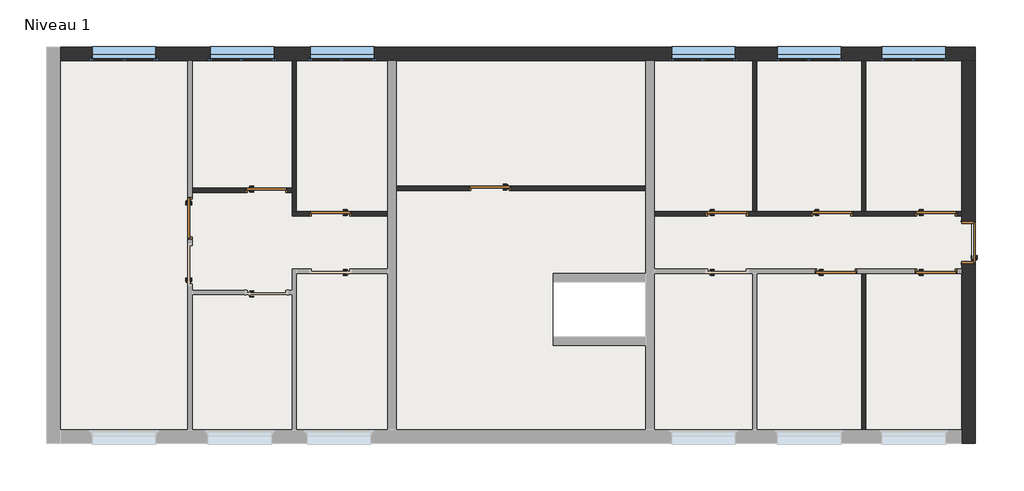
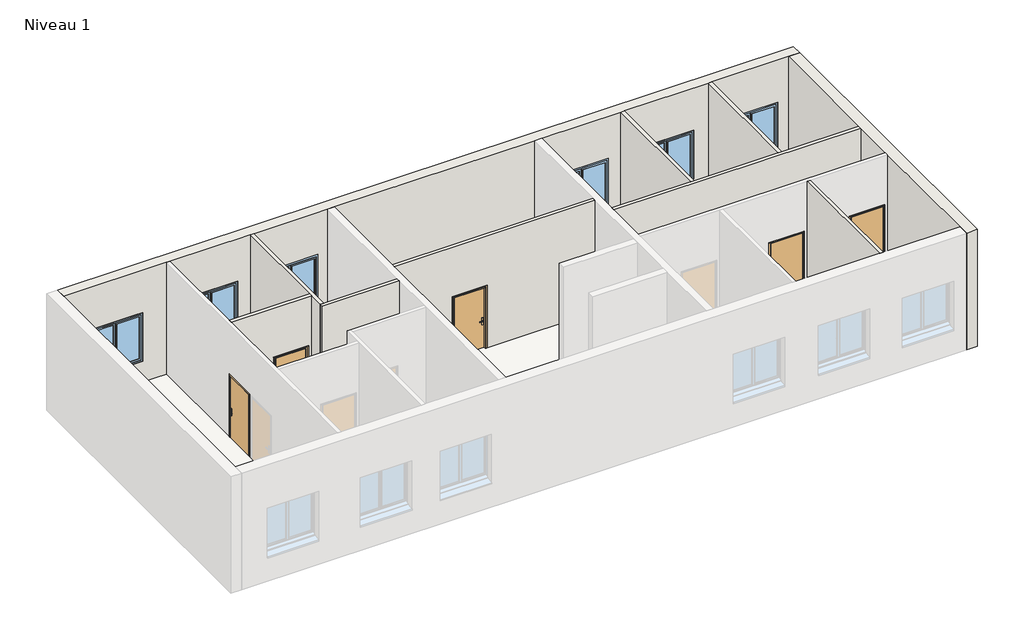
# One storey, part 2 of 2: 10 doors, 10 walls, 6 windows, 1 slab.
"""IFC4 building model written with IfcOpenShell, lengths in millimetres."""

from ifc_helpers import new_model, si_unit, frame, origin, place, context, project, spatial, polyline, outline, extrude, faceted_brep, transform, mapped, element, save
from components import int_simple_pp_0_93m_x_2_04m_4f2bf630, int_simple_pp_0_93m_x_2_04m_68d1b237, int_simple_pp_0_93m_x_2_04m_d9fe3ddc, window_4dd6e4df, window_9a843f60

model = new_model("IFC4")

# Units and contexts
model_context = context("Model", 3, world=origin())
ifc_project = project(units=[si_unit("LENGTHUNIT", "METRE", prefix="MILLI")], contexts=[model_context])

# Site, building, storey
site = spatial("IfcSite", under=ifc_project)
building = spatial("IfcBuilding", under=site)
storey = spatial("IfcBuildingStorey", under=building, Name="Niveau 1", Elevation=3600.0)

# Doors
placement = place(None, origin())
int_simple_pp_0_93m_x_2_04m_shape = int_simple_pp_0_93m_x_2_04m_4f2bf630(model_context)
element("IfcDoor", 1, ObjectType="Int. Simple : PP (0.93m x 2.04m)", at=placement, inside=storey, context=model_context, shape_type="MappedRepresentation", body=[
    mapped(int_simple_pp_0_93m_x_2_04m_shape, transform((4246.759299, -1075.3060551, 3600.0), x_axis=(1.0, 0.0, 0.0), y_axis=(0.0, 1.0, 0.0), z_axis=(0.0, 0.0, 1.0))),
])
element("IfcDoor", 2, ObjectType="Int. Simple : PP (0.93m x 2.04m)", at=placement, inside=storey, context=model_context, shape_type="MappedRepresentation", body=[
    mapped(int_simple_pp_0_93m_x_2_04m_shape, transform((6596.759299, -1075.3060551, 3600.0), x_axis=(1.0, 0.0, 0.0), y_axis=(0.0, 1.0, 0.0), z_axis=(0.0, 0.0, 1.0))),
])
element("IfcDoor", 3, ObjectType="Int. Simple : PP (0.93m x 2.04m)", at=placement, inside=storey, context=model_context, shape_type="MappedRepresentation", body=[
    mapped(int_simple_pp_0_93m_x_2_04m_shape, transform((-3953.240701, 874.6939449, 3600.0), x_axis=(-1.0, 0.0, 0.0), y_axis=(0.0, -1.0, 0.0), z_axis=(0.0, 0.0, 1.0))),
])
element("IfcDoor", 4, ObjectType="Int. Simple : PP (0.93m x 2.04m)", at=placement, inside=storey, context=model_context, shape_type="MappedRepresentation", body=[
    mapped(int_simple_pp_0_93m_x_2_04m_shape, transform((-7703.240701, 274.6939449, 3600.0), x_axis=(-1.0, 0.0, 0.0), y_axis=(0.0, -1.0, 0.0), z_axis=(0.0, 0.0, 1.0))),
])
element("IfcDoor", 5, ObjectType="Int. Simple : PP (0.93m x 2.04m)", at=placement, inside=storey, context=model_context, shape_type="MappedRepresentation", body=[
    mapped(int_simple_pp_0_93m_x_2_04m_shape, transform((-10968.240701, 139.6939449, 3600.0), x_axis=(0.0, -1.0, 0.0), y_axis=(1.0, 0.0, 0.0), z_axis=(0.0, 0.0, 1.0))),
])
int_simple_pp_0_93m_x_2_04m_2_shape = int_simple_pp_0_93m_x_2_04m_68d1b237(model_context)
element("IfcDoor", 6, ObjectType="Int. Simple : PP (0.93m x 2.04m)", at=placement, inside=storey, context=model_context, shape_type="MappedRepresentation", body=[
    mapped(int_simple_pp_0_93m_x_2_04m_2_shape, transform((6596.759299, 274.6939449, 3600.0), x_axis=(1.0, 0.0, 0.0), y_axis=(0.0, 1.0, 0.0), z_axis=(0.0, 0.0, 1.0))),
])
element("IfcDoor", 7, ObjectType="Int. Simple : PP (0.93m x 2.04m)", at=placement, inside=storey, context=model_context, shape_type="MappedRepresentation", body=[
    mapped(int_simple_pp_0_93m_x_2_04m_2_shape, transform((4146.759299, 274.6939449, 3600.0), x_axis=(1.0, 0.0, 0.0), y_axis=(0.0, 1.0, 0.0), z_axis=(0.0, 0.0, 1.0))),
])
element("IfcDoor", 8, ObjectType="Int. Simple : PP (0.93m x 2.04m)", at=placement, inside=storey, context=model_context, shape_type="MappedRepresentation", body=[
    mapped(int_simple_pp_0_93m_x_2_04m_2_shape, transform((1686.759299, 274.6939449, 3600.0), x_axis=(1.0, 0.0, 0.0), y_axis=(0.0, 1.0, 0.0), z_axis=(0.0, 0.0, 1.0))),
])
element("IfcDoor", 9, ObjectType="Int. Simple : PP (0.93m x 2.04m)", at=placement, inside=storey, context=model_context, shape_type="MappedRepresentation", body=[
    mapped(int_simple_pp_0_93m_x_2_04m_2_shape, transform((-9133.240701, 824.6939449, 3600.0), x_axis=(1.0, 0.0, 0.0), y_axis=(0.0, 1.0, 0.0), z_axis=(0.0, 0.0, 1.0))),
])
int_simple_pp_0_93m_x_2_04m_3_shape = int_simple_pp_0_93m_x_2_04m_d9fe3ddc(model_context)
element("IfcDoor", 10, ObjectType="Int. Simple : PP (0.93m x 2.04m)", at=placement, inside=storey, context=model_context, shape_type="MappedRepresentation", body=[
    mapped(int_simple_pp_0_93m_x_2_04m_3_shape, transform((7321.759299, -365.3060551, 3600.0), x_axis=(0.0, 1.0, 0.0), y_axis=(-1.0, 0.0, 0.0), z_axis=(0.0, 0.0, 1.0))),
])

# Slab
element("IfcSlab", 11, ObjectType="Dalle en béton - 150 mm", at=placement, inside=storey, context=model_context, shape_type="SweptSolid", body=[
    extrude(outline(polyline([(-14238.240701, -5025.3060551), (-14238.240701, 4094.6939449), (7381.759299, 4094.6939449), (7381.759299, -5025.3060551), (-14238.240701, -5025.3060551)]), holes=[polyline([(-258.240701, -1329.6604406), (-2430.4682755, -1329.6604406), (-2430.4682755, -2625.3060551), (-258.240701, -2625.3060551), (-258.240701, -1329.6604406)])]), frame((0.0, 0.0, 3600.0), z_axis=(0.0, 0.0, 1.0), x_axis=(1.0, 0.0, 0.0)), (0.0, 0.0, 1.0), 150.0),
])

# Walls
element("IfcWall", 12, ObjectType="Int. plâtre 100 mm", at=placement, inside=storey, context=model_context, shape_type="Brep", body=[
    faceted_brep([(7161.759299, 224.6939449, 7200.0), (-58.240701, 224.6939449, 7200.0), (-58.240701, 224.6939449, 3600.0), (1151.759299, 224.6939449, 3600.0), (1151.759299, 224.6939449, 5675.0), (2151.759299, 224.6939449, 5675.0), (2151.759299, 224.6939449, 3600.0), (3611.759299, 224.6939449, 3600.0), (3611.759299, 224.6939449, 5675.0), (4611.759299, 224.6939449, 5675.0), (4611.759299, 224.6939449, 3600.0), (6061.759299, 224.6939449, 3600.0), (6061.759299, 224.6939449, 5675.0), (7061.759299, 224.6939449, 5675.0), (7061.759299, 224.6939449, 3600.0), (7161.759299, 224.6939449, 3600.0), (-58.240701, 324.6939449, 7200.0), (2251.759299, 324.6939449, 7200.0), (2351.759299, 324.6939449, 7200.0), (4811.759299, 324.6939449, 7200.0), (4911.759299, 324.6939449, 7200.0), (7161.759299, 324.6939449, 7200.0), (7161.759299, 324.6939449, 3600.0), (7061.759299, 324.6939449, 3600.0), (7061.759299, 324.6939449, 5675.0), (6061.759299, 324.6939449, 5675.0), (6061.759299, 324.6939449, 3600.0), (4911.759299, 324.6939449, 3600.0), (4811.759299, 324.6939449, 3600.0), (4611.759299, 324.6939449, 3600.0), (4611.759299, 324.6939449, 5675.0), (3611.759299, 324.6939449, 5675.0), (3611.759299, 324.6939449, 3600.0), (2351.759299, 324.6939449, 3600.0), (2251.759299, 324.6939449, 3600.0), (2151.759299, 324.6939449, 3600.0), (2151.759299, 324.6939449, 5675.0), (1151.759299, 324.6939449, 5675.0), (1151.759299, 324.6939449, 3600.0), (-58.240701, 324.6939449, 3600.0)], [[[0, 1, 2, 3, 4, 5, 6, 7, 8, 9, 10, 11, 12, 13, 14, 15]], [[16, 17, 18, 19, 20, 21, 22, 23, 24, 25, 26, 27, 28, 29, 30, 31, 32, 33, 34, 35, 36, 37, 38, 39]], [[2, 39, 38, 3]], [[22, 15, 14, 23]], [[26, 11, 10, 29, 28, 27]], [[32, 7, 6, 35, 34, 33]], [[1, 0, 21, 20, 19, 18, 17, 16]], [[0, 15, 22, 21]], [[2, 1, 16, 39]], [[13, 24, 23, 14]], [[24, 13, 12, 25]], [[25, 12, 11, 26]], [[10, 9, 30, 29]], [[9, 8, 31, 30]], [[8, 7, 32, 31]], [[5, 36, 35, 6]], [[36, 5, 4, 37]], [[37, 4, 3, 38]]]),
])
element("IfcWall", 13, ObjectType="Int. plâtre 100 mm", at=placement, inside=storey, context=model_context, shape_type="SweptSolid", body=[
    extrude(outline(polyline([(4911.759299, -1125.3060551), (4911.759299, -4805.3060551), (4811.759299, -4805.3060551), (4811.759299, -1125.3060551), (4911.759299, -1125.3060551)])), frame((0.0, 0.0, 3600.0), z_axis=(0.0, 0.0, 1.0), x_axis=(1.0, 0.0, 0.0)), (0.0, 0.0, 1.0), 3600.0),
])
element("IfcWall", 14, ObjectType="Int. plâtre 100 mm", at=placement, inside=storey, context=model_context, shape_type="SweptSolid", body=[
    extrude(outline(polyline([(2251.759299, 324.6939449), (2251.759299, 3874.6939449), (2351.759299, 3874.6939449), (2351.759299, 324.6939449), (2251.759299, 324.6939449)])), frame((0.0, 0.0, 3600.0), z_axis=(0.0, 0.0, 1.0), x_axis=(1.0, 0.0, 0.0)), (0.0, 0.0, 1.0), 3600.0),
])
element("IfcWall", 15, ObjectType="Int. plâtre 100 mm", at=placement, inside=storey, context=model_context, shape_type="SweptSolid", body=[
    extrude(outline(polyline([(4811.759299, 324.6939449), (4811.759299, 3874.6939449), (4911.759299, 3874.6939449), (4911.759299, 324.6939449), (4811.759299, 324.6939449)])), frame((0.0, 0.0, 3600.0), z_axis=(0.0, 0.0, 1.0), x_axis=(1.0, 0.0, 0.0)), (0.0, 0.0, 1.0), 3600.0),
])
element("IfcWall", 16, ObjectType="Int. plâtre 100 mm", at=placement, inside=storey, context=model_context, shape_type="Brep", body=[
    faceted_brep([(-8568.240701, 324.6939449, 7200.0), (-8468.240701, 324.6939449, 7200.0), (-6318.240701, 324.6939449, 7200.0), (-6318.240701, 324.6939449, 3600.0), (-7168.240701, 324.6939449, 3600.0), (-7168.240701, 324.6939449, 5675.0), (-8168.240701, 324.6939449, 5675.0), (-8168.240701, 324.6939449, 3600.0), (-8468.240701, 324.6939449, 3600.0), (-8568.240701, 324.6939449, 3600.0), (-6318.240701, 224.6939449, 7200.0), (-8568.240701, 224.6939449, 7200.0), (-8568.240701, 224.6939449, 3600.0), (-8168.240701, 224.6939449, 3600.0), (-8168.240701, 224.6939449, 5675.0), (-7168.240701, 224.6939449, 5675.0), (-7168.240701, 224.6939449, 3600.0), (-6318.240701, 224.6939449, 3600.0)], [[[0, 1, 2, 3, 4, 5, 6, 7, 8, 9]], [[10, 11, 12, 13, 14, 15, 16, 17]], [[3, 17, 16, 4]], [[12, 9, 8, 7, 13]], [[2, 1, 0, 11, 10]], [[3, 2, 10, 17]], [[0, 9, 12, 11]], [[6, 14, 13, 7]], [[14, 6, 5, 15]], [[15, 5, 4, 16]]]),
])
element("IfcWall", 17, ObjectType="Int. plâtre 100 mm", at=placement, inside=storey, context=model_context, shape_type="Brep", body=[
    faceted_brep([(-8468.240701, 324.6939449, 3600.0), (-8468.240701, 3874.6939449, 3600.0), (-8468.240701, 3874.6939449, 7200.0), (-8468.240701, 324.6939449, 7200.0), (-8568.240701, 324.6939449, 3600.0), (-8568.240701, 324.6939449, 7200.0), (-8568.240701, 774.6939449, 7200.0), (-8568.240701, 874.6939449, 7200.0), (-8568.240701, 3874.6939449, 7200.0), (-8568.240701, 3874.6939449, 3600.0), (-8568.240701, 874.6939449, 3600.0), (-8568.240701, 774.6939449, 3600.0)], [[[0, 1, 2, 3]], [[4, 5, 6, 7, 8, 9, 10, 11]], [[1, 0, 4, 11, 10, 9]], [[3, 2, 8, 7, 6, 5]], [[0, 3, 5, 4]], [[2, 1, 9, 8]]]),
])
element("IfcWall", 18, ObjectType="Int. plâtre 100 mm", at=placement, inside=storey, context=model_context, shape_type="SweptSolid", body=[
    extrude(outline(polyline([(7200.0, -8568.240701), (7200.0, -10918.240701), (3600.0, -10918.240701), (3600.0, -9668.240701), (5675.0, -9668.240701), (5675.0, -8668.240701), (3600.0, -8668.240701), (3600.0, -8568.240701), (7200.0, -8568.240701)])), frame((0.0, 774.6939449, 0.0), z_axis=(0.0, 1.0, 0.0), x_axis=(0.0, 0.0, 1.0)), (0.0, 0.0, 1.0), 100.0),
])
element("IfcWall", 19, ObjectType="Int. plâtre 100 mm", at=placement, inside=storey, context=model_context, shape_type="SweptSolid", body=[
    extrude(outline(polyline([(7200.0, -258.240701), (7200.0, -6118.240701), (3600.0, -6118.240701), (3600.0, -4418.240701), (5675.0, -4418.240701), (5675.0, -3418.240701), (3600.0, -3418.240701), (3600.0, -258.240701), (7200.0, -258.240701)])), frame((0.0, 824.6939449, 0.0), z_axis=(0.0, 1.0, 0.0), x_axis=(0.0, 0.0, 1.0)), (0.0, 0.0, 1.0), 100.0),
])
element("IfcWall", 20, ObjectType="Ext. Voile BA 20 + Isolant 10", at=placement, inside=storey, context=model_context, shape_type="Brep", body=[
    faceted_brep([(-14018.240701, 3874.6939449, 3600.0), (-11018.240701, 3874.6939449, 3600.0), (-10918.240701, 3874.6939449, 3600.0), (-8568.240701, 3874.6939449, 3600.0), (-8468.240701, 3874.6939449, 3600.0), (-6318.240701, 3874.6939449, 3600.0), (-6118.240701, 3874.6939449, 3600.0), (-258.240701, 3874.6939449, 3600.0), (-58.240701, 3874.6939449, 3600.0), (2251.759299, 3874.6939449, 3600.0), (2351.759299, 3874.6939449, 3600.0), (4811.759299, 3874.6939449, 3600.0), (4911.759299, 3874.6939449, 3600.0), (7161.759299, 3874.6939449, 3600.0), (7481.759299, 3874.6939449, 3600.0), (7481.759299, 3874.6939449, 7200.0), (7161.759299, 3874.6939449, 7200.0), (4911.759299, 3874.6939449, 7200.0), (4811.759299, 3874.6939449, 7200.0), (2351.759299, 3874.6939449, 7200.0), (2251.759299, 3874.6939449, 7200.0), (-58.240701, 3874.6939449, 7200.0), (-258.240701, 3874.6939449, 7200.0), (-6118.240701, 3874.6939449, 7200.0), (-6318.240701, 3874.6939449, 7200.0), (-8468.240701, 3874.6939449, 7200.0), (-8568.240701, 3874.6939449, 7200.0), (-10918.240701, 3874.6939449, 7200.0), (-11018.240701, 3874.6939449, 7200.0), (-14018.240701, 3874.6939449, 7200.0), (-6593.240701, 3874.6939449, 4400.0), (-8193.240701, 3874.6939449, 4400.0), (-8193.240701, 3874.6939449, 5900.0), (-6593.240701, 3874.6939449, 5900.0), (-8943.240701, 3874.6939449, 4400.0), (-10543.240701, 3874.6939449, 4400.0), (-10543.240701, 3874.6939449, 5900.0), (-8943.240701, 3874.6939449, 5900.0), (-11718.240701, 3874.6939449, 4400.0), (-13318.240701, 3874.6939449, 4400.0), (-13318.240701, 3874.6939449, 5900.0), (-11718.240701, 3874.6939449, 5900.0), (6836.759299, 3874.6939449, 4400.0), (5236.759299, 3874.6939449, 4400.0), (5236.759299, 3874.6939449, 5900.0), (6836.759299, 3874.6939449, 5900.0), (4381.759299, 3874.6939449, 4400.0), (2781.759299, 3874.6939449, 4400.0), (2781.759299, 3874.6939449, 5900.0), (4381.759299, 3874.6939449, 5900.0), (1896.759299, 3874.6939449, 4400.0), (296.759299, 3874.6939449, 4400.0), (296.759299, 3874.6939449, 5900.0), (1896.759299, 3874.6939449, 5900.0), (-14018.240701, 4194.6939449, 3600.0), (-14018.240701, 4194.6939449, 7200.0), (7481.759299, 4194.6939449, 7200.0), (7481.759299, 4194.6939449, 3600.0), (-8143.240701, 4194.6939449, 5850.0), (-8143.240701, 4194.6939449, 4320.0), (-6643.240701, 4194.6939449, 4320.0), (-6643.240701, 4194.6939449, 5850.0), (-10493.240701, 4194.6939449, 5850.0), (-10493.240701, 4194.6939449, 4320.0), (-8993.240701, 4194.6939449, 4320.0), (-8993.240701, 4194.6939449, 5850.0), (-11768.240701, 4194.6939449, 4320.0), (-11768.240701, 4194.6939449, 5850.0), (-13268.240701, 4194.6939449, 5850.0), (-13268.240701, 4194.6939449, 4320.0), (5286.759299, 4194.6939449, 5850.0), (5286.759299, 4194.6939449, 4320.0), (6786.759299, 4194.6939449, 4320.0), (6786.759299, 4194.6939449, 5850.0), (2831.759299, 4194.6939449, 5850.0), (2831.759299, 4194.6939449, 4320.0), (4331.759299, 4194.6939449, 4320.0), (4331.759299, 4194.6939449, 5850.0), (346.759299, 4194.6939449, 5850.0), (346.759299, 4194.6939449, 4320.0), (1846.759299, 4194.6939449, 4320.0), (1846.759299, 4194.6939449, 5850.0), (-8143.240701, 3954.6939449, 4400.0), (-8143.240701, 3954.6939449, 4320.0), (-8143.240701, 3974.6939449, 5850.0), (-8143.240701, 3974.6939449, 4400.0), (-6643.240701, 3954.6939449, 4320.0), (-6643.240701, 3954.6939449, 4400.0), (-6643.240701, 3974.6939449, 4400.0), (-6643.240701, 3974.6939449, 5850.0), (-8153.240701, 3974.6939449, 4400.0), (-8153.240701, 3924.6939449, 4400.0), (-8193.240701, 3924.6939449, 4400.0), (-6593.240701, 3924.6939449, 4400.0), (-6633.240701, 3924.6939449, 4400.0), (-6633.240701, 3974.6939449, 4400.0), (-8193.240701, 3924.6939449, 5900.0), (-8153.240701, 3924.6939449, 5860.0), (-6633.240701, 3924.6939449, 5860.0), (-6593.240701, 3924.6939449, 5900.0), (-8153.240701, 3974.6939449, 5860.0), (-6633.240701, 3974.6939449, 5860.0), (-10493.240701, 3954.6939449, 4400.0), (-10493.240701, 3954.6939449, 4320.0), (-10493.240701, 3974.6939449, 5850.0), (-10493.240701, 3974.6939449, 4400.0), (-8993.240701, 3954.6939449, 4320.0), (-8993.240701, 3954.6939449, 4400.0), (-8993.240701, 3974.6939449, 4400.0), (-8993.240701, 3974.6939449, 5850.0), (-10503.240701, 3974.6939449, 4400.0), (-10503.240701, 3924.6939449, 4400.0), (-10543.240701, 3924.6939449, 4400.0), (-8943.240701, 3924.6939449, 4400.0), (-8983.240701, 3924.6939449, 4400.0), (-8983.240701, 3974.6939449, 4400.0), (-10543.240701, 3924.6939449, 5900.0), (-10503.240701, 3924.6939449, 5860.0), (-8983.240701, 3924.6939449, 5860.0), (-8943.240701, 3924.6939449, 5900.0), (-10503.240701, 3974.6939449, 5860.0), (-8983.240701, 3974.6939449, 5860.0), (-11768.240701, 3954.6939449, 4400.0), (-11768.240701, 3974.6939449, 4400.0), (-11768.240701, 3974.6939449, 5850.0), (-11768.240701, 3954.6939449, 4320.0), (-13268.240701, 3954.6939449, 4320.0), (-13268.240701, 3974.6939449, 5850.0), (-13268.240701, 3974.6939449, 4400.0), (-13268.240701, 3954.6939449, 4400.0), (-13278.240701, 3974.6939449, 4400.0), (-13278.240701, 3924.6939449, 4400.0), (-13318.240701, 3924.6939449, 4400.0), (-11718.240701, 3924.6939449, 4400.0), (-11758.240701, 3924.6939449, 4400.0), (-11758.240701, 3974.6939449, 4400.0), (-11718.240701, 3924.6939449, 5900.0), (-13318.240701, 3924.6939449, 5900.0), (-13278.240701, 3924.6939449, 5860.0), (-11758.240701, 3924.6939449, 5860.0), (-11758.240701, 3974.6939449, 5860.0), (-13278.240701, 3974.6939449, 5860.0), (5286.759299, 3954.6939449, 4400.0), (5286.759299, 3954.6939449, 4320.0), (5286.759299, 3974.6939449, 5850.0), (5286.759299, 3974.6939449, 4400.0), (6786.759299, 3954.6939449, 4320.0), (6786.759299, 3954.6939449, 4400.0), (6786.759299, 3974.6939449, 4400.0), (6786.759299, 3974.6939449, 5850.0), (5276.759299, 3974.6939449, 4400.0), (5276.759299, 3924.6939449, 4400.0), (5236.759299, 3924.6939449, 4400.0), (6836.759299, 3924.6939449, 4400.0), (6796.759299, 3924.6939449, 4400.0), (6796.759299, 3974.6939449, 4400.0), (5236.759299, 3924.6939449, 5900.0), (5276.759299, 3924.6939449, 5860.0), (6796.759299, 3924.6939449, 5860.0), (6836.759299, 3924.6939449, 5900.0), (5276.759299, 3974.6939449, 5860.0), (6796.759299, 3974.6939449, 5860.0), (2831.759299, 3954.6939449, 4400.0), (2831.759299, 3954.6939449, 4320.0), (2831.759299, 3974.6939449, 5850.0), (2831.759299, 3974.6939449, 4400.0), (4331.759299, 3954.6939449, 4320.0), (4331.759299, 3954.6939449, 4400.0), (4331.759299, 3974.6939449, 4400.0), (4331.759299, 3974.6939449, 5850.0), (2821.759299, 3974.6939449, 4400.0), (2821.759299, 3924.6939449, 4400.0), (2781.759299, 3924.6939449, 4400.0), (4381.759299, 3924.6939449, 4400.0), (4341.759299, 3924.6939449, 4400.0), (4341.759299, 3974.6939449, 4400.0), (2781.759299, 3924.6939449, 5900.0), (2821.759299, 3924.6939449, 5860.0), (4341.759299, 3924.6939449, 5860.0), (4381.759299, 3924.6939449, 5900.0), (2821.759299, 3974.6939449, 5860.0), (4341.759299, 3974.6939449, 5860.0), (346.759299, 3954.6939449, 4400.0), (346.759299, 3954.6939449, 4320.0), (346.759299, 3974.6939449, 5850.0), (346.759299, 3974.6939449, 4400.0), (1846.759299, 3954.6939449, 4320.0), (1846.759299, 3954.6939449, 4400.0), (1846.759299, 3974.6939449, 4400.0), (1846.759299, 3974.6939449, 5850.0), (336.759299, 3974.6939449, 4400.0), (336.759299, 3924.6939449, 4400.0), (296.759299, 3924.6939449, 4400.0), (1896.759299, 3924.6939449, 4400.0), (1856.759299, 3924.6939449, 4400.0), (1856.759299, 3974.6939449, 4400.0), (296.759299, 3924.6939449, 5900.0), (336.759299, 3924.6939449, 5860.0), (1856.759299, 3924.6939449, 5860.0), (1896.759299, 3924.6939449, 5900.0), (336.759299, 3974.6939449, 5860.0), (1856.759299, 3974.6939449, 5860.0)], [[[0, 1, 2, 3, 4, 5, 6, 7, 8, 9, 10, 11, 12, 13, 14, 15, 16, 17, 18, 19, 20, 21, 22, 23, 24, 25, 26, 27, 28, 29], [30, 31, 32, 33], [34, 35, 36, 37], [38, 39, 40, 41], [42, 43, 44, 45], [46, 47, 48, 49], [50, 51, 52, 53]], [[54, 55, 56, 57], [58, 59, 60, 61], [62, 63, 64, 65], [66, 67, 68, 69], [70, 71, 72, 73], [74, 75, 76, 77], [78, 79, 80, 81]], [[14, 13, 12, 11, 10, 9, 8, 7, 6, 5, 4, 3, 2, 1, 0, 54, 57]], [[29, 28, 27, 26, 25, 24, 23, 22, 21, 20, 19, 18, 17, 16, 15, 56, 55]], [[0, 29, 55, 54]], [[15, 14, 57, 56]], [[82, 83, 59, 58, 84, 85]], [[86, 87, 88, 89, 61, 60]], [[83, 86, 60, 59]], [[83, 82, 87, 86]], [[58, 61, 89, 84]], [[87, 82, 85, 90, 91, 92, 31, 30, 93, 94, 95, 88]], [[31, 92, 96, 32]], [[92, 91, 97, 98, 94, 93, 99, 96]], [[91, 90, 100, 97]], [[90, 85, 84, 89, 88, 95, 101, 100]], [[32, 96, 99, 33]], [[98, 97, 100, 101]], [[99, 93, 30, 33]], [[94, 98, 101, 95]], [[102, 103, 63, 62, 104, 105]], [[106, 107, 108, 109, 65, 64]], [[103, 106, 64, 63]], [[103, 102, 107, 106]], [[62, 65, 109, 104]], [[107, 102, 105, 110, 111, 112, 35, 34, 113, 114, 115, 108]], [[35, 112, 116, 36]], [[112, 111, 117, 118, 114, 113, 119, 116]], [[111, 110, 120, 117]], [[110, 105, 104, 109, 108, 115, 121, 120]], [[36, 116, 119, 37]], [[118, 117, 120, 121]], [[119, 113, 34, 37]], [[114, 118, 121, 115]], [[122, 123, 124, 67, 66, 125]], [[126, 69, 68, 127, 128, 129]], [[125, 66, 69, 126]], [[125, 126, 129, 122]], [[67, 124, 127, 68]], [[129, 128, 130, 131, 132, 39, 38, 133, 134, 135, 123, 122]], [[38, 41, 136, 133]], [[133, 136, 137, 132, 131, 138, 139, 134]], [[134, 139, 140, 135]], [[135, 140, 141, 130, 128, 127, 124, 123]], [[41, 40, 137, 136]], [[138, 141, 140, 139]], [[137, 40, 39, 132]], [[131, 130, 141, 138]], [[142, 143, 71, 70, 144, 145]], [[146, 147, 148, 149, 73, 72]], [[143, 146, 72, 71]], [[143, 142, 147, 146]], [[70, 73, 149, 144]], [[147, 142, 145, 150, 151, 152, 43, 42, 153, 154, 155, 148]], [[43, 152, 156, 44]], [[152, 151, 157, 158, 154, 153, 159, 156]], [[151, 150, 160, 157]], [[150, 145, 144, 149, 148, 155, 161, 160]], [[44, 156, 159, 45]], [[158, 157, 160, 161]], [[159, 153, 42, 45]], [[154, 158, 161, 155]], [[162, 163, 75, 74, 164, 165]], [[166, 167, 168, 169, 77, 76]], [[163, 166, 76, 75]], [[163, 162, 167, 166]], [[74, 77, 169, 164]], [[167, 162, 165, 170, 171, 172, 47, 46, 173, 174, 175, 168]], [[47, 172, 176, 48]], [[172, 171, 177, 178, 174, 173, 179, 176]], [[171, 170, 180, 177]], [[170, 165, 164, 169, 168, 175, 181, 180]], [[48, 176, 179, 49]], [[178, 177, 180, 181]], [[179, 173, 46, 49]], [[174, 178, 181, 175]], [[182, 183, 79, 78, 184, 185]], [[186, 187, 188, 189, 81, 80]], [[183, 186, 80, 79]], [[183, 182, 187, 186]], [[78, 81, 189, 184]], [[187, 182, 185, 190, 191, 192, 51, 50, 193, 194, 195, 188]], [[51, 192, 196, 52]], [[192, 191, 197, 198, 194, 193, 199, 196]], [[191, 190, 200, 197]], [[190, 185, 184, 189, 188, 195, 201, 200]], [[52, 196, 199, 53]], [[198, 197, 200, 201]], [[199, 193, 50, 53]], [[194, 198, 201, 195]]]),
])
element("IfcWall", 21, ObjectType="Ext. Voile BA 20 + Isolant 10", at=placement, inside=storey, context=model_context, shape_type="Brep", body=[
    faceted_brep([(7161.759299, -5125.3060551, 7200.0), (7161.759299, -4805.3060551, 7200.0), (7161.759299, -1125.3060551, 7200.0), (7161.759299, -1025.3060551, 7200.0), (7161.759299, 224.6939449, 7200.0), (7161.759299, 324.6939449, 7200.0), (7161.759299, 3874.6939449, 7200.0), (7161.759299, 3874.6939449, 3600.0), (7161.759299, 324.6939449, 3600.0), (7161.759299, 224.6939449, 3600.0), (7161.759299, 99.6939449, 3600.0), (7161.759299, 99.6939449, 5675.0), (7161.759299, -900.3060551, 5675.0), (7161.759299, -900.3060551, 3600.0), (7161.759299, -1025.3060551, 3600.0), (7161.759299, -1125.3060551, 3600.0), (7161.759299, -4805.3060551, 3600.0), (7161.759299, -5125.3060551, 3600.0), (7481.759299, 3874.6939449, 7200.0), (7481.759299, -5125.3060551, 7200.0), (7481.759299, -5125.3060551, 3600.0), (7481.759299, -900.3060551, 3600.0), (7481.759299, -900.3060551, 5675.0), (7481.759299, 99.6939449, 5675.0), (7481.759299, 99.6939449, 3600.0), (7481.759299, 3874.6939449, 3600.0)], [[[0, 1, 2, 3, 4, 5, 6, 7, 8, 9, 10, 11, 12, 13, 14, 15, 16, 17]], [[18, 19, 20, 21, 22, 23, 24, 25]], [[7, 25, 24, 10, 9, 8]], [[20, 17, 16, 15, 14, 13, 21]], [[6, 5, 4, 3, 2, 1, 0, 19, 18]], [[7, 6, 18, 25]], [[0, 17, 20, 19]], [[23, 11, 10, 24]], [[11, 23, 22, 12]], [[12, 22, 21, 13]]]),
])

# Windows
window_shape = window_4dd6e4df(model_context)
element("IfcWindow", 22, ObjectType="2 Vantaux - Droits : 1.50m x 1.45m - Appui Béton", at=placement, inside=storey, context=model_context, shape_type="MappedRepresentation", body=[
    mapped(window_shape, transform((1096.759299, 4034.6939449, 3600.0), x_axis=(1.0, 0.0, 0.0), y_axis=(0.0, 1.0, 0.0), z_axis=(0.0, 0.0, 1.0))),
])
element("IfcWindow", 23, ObjectType="2 Vantaux - Droits : 1.50m x 1.45m - Appui Béton", at=placement, inside=storey, context=model_context, shape_type="MappedRepresentation", body=[
    mapped(window_shape, transform((3581.759299, 4034.6939449, 3600.0), x_axis=(1.0, 0.0, 0.0), y_axis=(0.0, 1.0, 0.0), z_axis=(0.0, 0.0, 1.0))),
])
element("IfcWindow", 24, ObjectType="2 Vantaux - Droits : 1.50m x 1.45m - Appui Béton", at=placement, inside=storey, context=model_context, shape_type="MappedRepresentation", body=[
    mapped(window_shape, transform((6036.759299, 4034.6939449, 3600.0), x_axis=(1.0, 0.0, 0.0), y_axis=(0.0, 1.0, 0.0), z_axis=(0.0, 0.0, 1.0))),
])
element("IfcWindow", 25, ObjectType="2 Vantaux - Droits : 1.50m x 1.45m - Appui Béton", at=placement, inside=storey, context=model_context, shape_type="MappedRepresentation", body=[
    mapped(window_shape, transform((-9743.240701, 4034.6939449, 3600.0), x_axis=(1.0, 0.0, 0.0), y_axis=(0.0, 1.0, 0.0), z_axis=(0.0, 0.0, 1.0))),
])
element("IfcWindow", 26, ObjectType="2 Vantaux - Droits : 1.50m x 1.45m - Appui Béton", at=placement, inside=storey, context=model_context, shape_type="MappedRepresentation", body=[
    mapped(window_shape, transform((-7393.240701, 4034.6939449, 3600.0), x_axis=(1.0, 0.0, 0.0), y_axis=(0.0, 1.0, 0.0), z_axis=(0.0, 0.0, 1.0))),
])
window_2_shape = window_9a843f60(model_context)
element("IfcWindow", 27, ObjectType="2 Vantaux - Droits : 1.50m x 1.45m - Appui Béton", at=placement, inside=storey, context=model_context, shape_type="MappedRepresentation", body=[
    mapped(window_2_shape, transform((-12518.240701, 4034.6939449, 3600.0), x_axis=(-1.0, 0.0, 0.0), y_axis=(0.0, -1.0, 0.0), z_axis=(0.0, 0.0, 1.0))),
])

save(model, "model.ifc")
